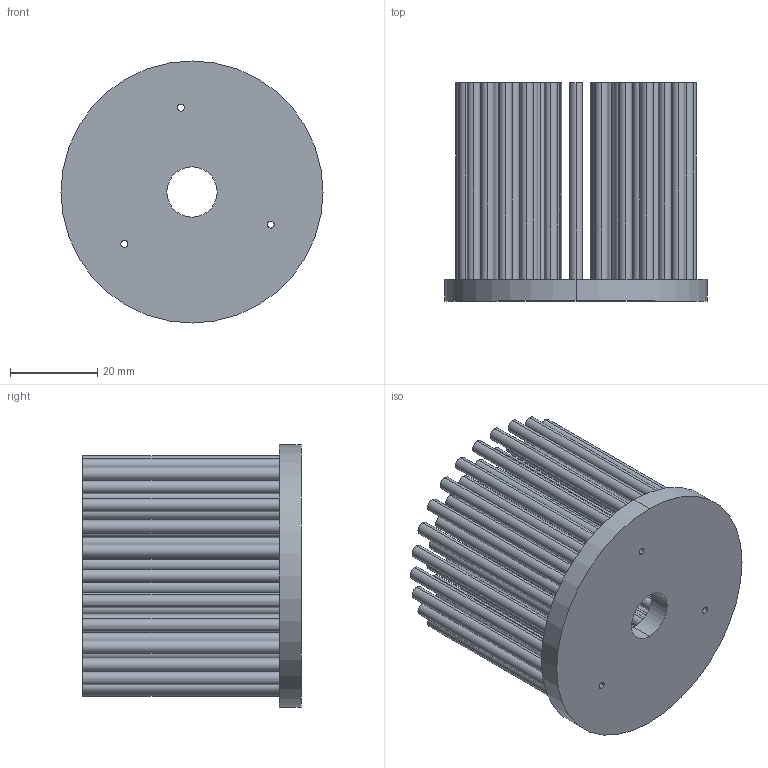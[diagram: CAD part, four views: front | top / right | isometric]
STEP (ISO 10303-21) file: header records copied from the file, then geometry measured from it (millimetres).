
FILE_DESCRIPTION (( 'STEP AP203' ), '1' );
FILE_NAME ('XSA-62-M2 (O60mm X 50mm).STEP', '2012-06-27T08:56:41', ( 'Your User Name' ), ( 'Your Company Name' ), 'SwSTEP 2.0', 'SolidWorks 2011', '' );
FILE_SCHEMA (( 'CONFIG_CONTROL_DESIGN' ));
Length unit declared in the file: millimetre
Products named in the file (1): XSA-62-M2 (O60mm X 50mm)
Bounding box: 60 x 50 x 60 mm (x, y, z)
Volume: 39670.7 mm3; surface area: 41411 mm2
Topology: 1 solids, 1 shells, 258 faces, 522 edges, 348 vertices
Faces by surface type: cylinder 174, plane 84
Entity records: 7027 total; most frequent: DIRECTION 1388, CARTESIAN_POINT 1129, ORIENTED_EDGE 1044, AXIS2_PLACEMENT_3D 607, EDGE_CURVE 522, CIRCLE 348, VERTEX_POINT 348, EDGE_LOOP 348
